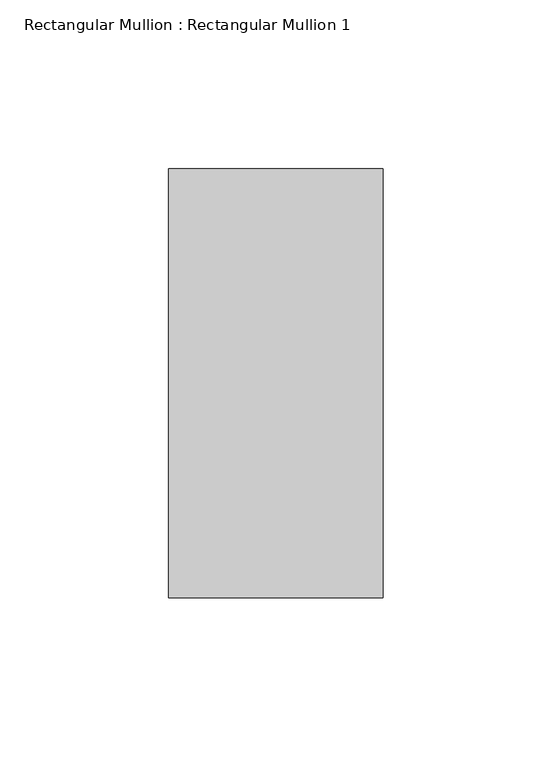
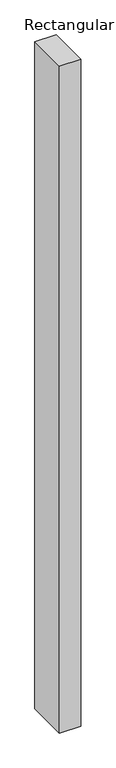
"""IFC4 building model written with IfcOpenShell, lengths in millimetres: member geometry, Rectangular Mullion : Rectangular Mullion 1."""

from ifc_helpers import new_model, si_unit, frame, origin, place, context, project, spatial, polyline, outline, extrude, source, transform, mapped, element, save


def rectangular_mullion_rectangular_mullion_1_8863286a(model_context):
    return source(origin(), model_context, "Body", "SweptSolid", [
        extrude(outline(polyline([(0.0, 63.5), (0.0, -63.5), (-63.5, -63.5), (-63.5, 63.5), (0.0, 63.5)])), frame((0.0, 0.0, -2104.5714285), z_axis=(0.0, 0.0, 1.0), x_axis=(1.0, 0.0, 0.0)), (0.0, 0.0, 1.0), 2104.5714285),
    ])


if __name__ == "__main__":
    model = new_model("IFC4")
    model_context = context("Model", 3, world=origin())
    ifc_project = project(units=[si_unit("LENGTHUNIT", "METRE", prefix="MILLI")], contexts=[model_context])
    site = spatial("IfcSite", under=ifc_project)
    building = spatial("IfcBuilding", under=site)
    placement = place(None, origin())
    rectangular_mullion_rectangular_mullion_1_shape = rectangular_mullion_rectangular_mullion_1_8863286a(model_context)
    element("IfcMember", 1, ObjectType="Rectangular Mullion : Rectangular Mullion 1", at=placement, inside=building, context=model_context, shape_type="MappedRepresentation", body=[
        mapped(rectangular_mullion_rectangular_mullion_1_shape, transform((0.0, 0.0, 0.0), x_axis=(1.0, 0.0, 0.0), y_axis=(0.0, 1.0, 0.0), z_axis=(0.0, 0.0, 1.0))),
    ])
    save(model, "model.ifc")
